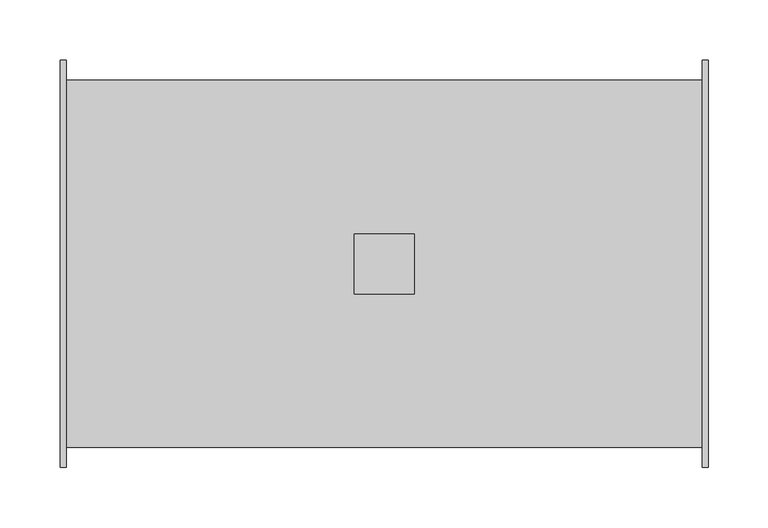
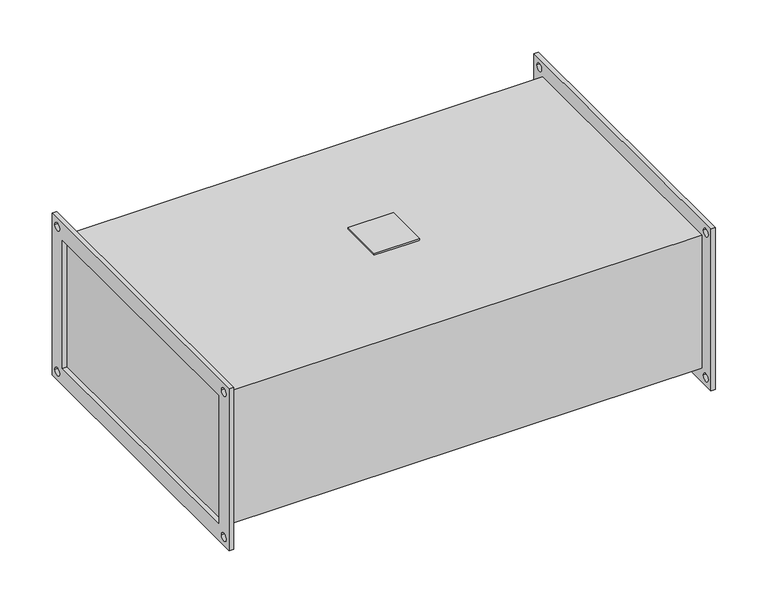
"""IFC4 building model written with IfcOpenShell, lengths in millimetres: damper geometry, KORF_Фильтр_Карманный_FKR : FKR 30-15  EU5."""

import ifcopenshell
import ifcopenshell.guid

model = None  # the IFC model being written
_history = None  # IfcOwnerHistory: only IFC2X3 demands one
_inside = {}  # id of a spatial element -> (the spatial element, [elements in it])
_under = {}  # id of a project, library or spatial element -> (it, [spatial elements below it])
_declared = {}  # id of a project -> (the project, [libraries it declares])
_typed = {}  # id of a type object -> (the type object, [elements of that type])
_made_of = {}  # id of a material, layer set ... -> (it, [elements and type objects made of it])


def new_model(schema):
    """Start an empty IFC model of exactly this schema.

    Asked for "IFC4X3", IfcOpenShell would pick the latest addendum, in which some entities
    have other attributes; the version numbers below select the first issue.
    IFC2X3 requires an IfcOwnerHistory on every rooted entity: one is made here for all.
    """
    global model, _history
    if schema == "IFC4X3":
        model = ifcopenshell.file(schema_version=(4, 3, 0, 0))
    else:
        model = ifcopenshell.file(schema=schema)
    _inside.clear()
    _under.clear()
    _declared.clear()
    _typed.clear()
    _made_of.clear()
    _history = None
    if model.schema == "IFC2X3":
        org = make("IfcOrganization", Name="unknown")
        user = make(
            "IfcPersonAndOrganization",
            ThePerson=make("IfcPerson", FamilyName="unknown"),
            TheOrganization=org,
        )
        app = make(
            "IfcApplication",
            ApplicationDeveloper=org,
            Version="unknown",
            ApplicationFullName="unknown",
            ApplicationIdentifier="unknown",
        )
        _history = make(
            "IfcOwnerHistory",
            OwningUser=user,
            OwningApplication=app,
            ChangeAction="ADDED",
            CreationDate=0,
        )
    return model


def make(cls, **values):
    """One entity of the class cls with the attributes given. An attribute that is None is left unset."""
    return model.create_entity(
        cls, **{name: value for name, value in values.items() if value is not None}
    )


def rooted(cls, **values):
    """An entity with a GlobalId (a new one), such as an element, a storey or a relation."""
    return make(cls, GlobalId=ifcopenshell.guid.new(), OwnerHistory=_history, **values)


def si_unit(unit_type, name, prefix=None):
    """IfcSIUnit, for example si_unit("LENGTHUNIT", "METRE", prefix="MILLI")."""
    return make("IfcSIUnit", UnitType=unit_type, Prefix=prefix, Name=name)


def assignment(units):
    """IfcUnitAssignment: the units of a project."""
    return None if units is None else make("IfcUnitAssignment", Units=units)


def point(xyz):
    """IfcCartesianPoint."""
    return None if xyz is None else make("IfcCartesianPoint", Coordinates=xyz)


def direction(xyz):
    """IfcDirection."""
    return None if xyz is None else make("IfcDirection", DirectionRatios=xyz)


def frame(location, z_axis=None, x_axis=None):
    """IfcAxis2Placement3D, a coordinate frame: its origin and axes. An axis left out is left unset."""
    return make(
        "IfcAxis2Placement3D",
        Location=point(location),
        Axis=direction(z_axis),
        RefDirection=direction(x_axis),
    )


def frame_2d(location, x_axis=None):
    """IfcAxis2Placement2D, a coordinate frame in the plane: its origin and x axis."""
    return make(
        "IfcAxis2Placement2D", Location=point(location), RefDirection=direction(x_axis)
    )


def origin():
    """The frame at (0, 0, 0) with its axes left unset."""
    return frame((0.0, 0.0, 0.0))


def place(relative_to, where):
    """IfcLocalPlacement: puts the frame where relative to a parent placement (None: the world)."""
    return make(
        "IfcLocalPlacement", PlacementRelTo=relative_to, RelativePlacement=where
    )


def context(
    kind, dimensions, precision=None, world=None, true_north=None, identifier=None
):
    """IfcGeometricRepresentationContext, for example the 3D "Model" context."""
    return make(
        "IfcGeometricRepresentationContext",
        ContextIdentifier=identifier,
        ContextType=kind,
        CoordinateSpaceDimension=dimensions,
        Precision=precision,
        WorldCoordinateSystem=world,
        TrueNorth=true_north,
    )


def project(units=None, contexts=None):
    """IfcProject with its units and contexts."""
    return rooted(
        "IfcProject",
        Name="project",
        RepresentationContexts=contexts,
        UnitsInContext=assignment(units),
    )


def spatial(cls, under=None, at=None, **own):
    """A site, building, storey or space (cls), placed at a placement, below another one or the project."""
    s = rooted(cls, ObjectPlacement=at, **own)
    if under is not None:
        _under.setdefault(under.id(), (under, []))[1].append(s)
    return s


def polyline(points):
    """IfcPolyline through the points."""
    return make("IfcPolyline", Points=[point(p) for p in points])


def circle_curve(where, radius):
    """IfcCircle in the frame where."""
    return make("IfcCircle", Position=where, Radius=radius)


def trimmed(basis, trim1, trim2, sense, master):
    """IfcTrimmedCurve: the piece of a basis curve between two trims."""
    return make(
        "IfcTrimmedCurve",
        BasisCurve=basis,
        Trim1=trim1,
        Trim2=trim2,
        SenseAgreement=sense,
        MasterRepresentation=master,
    )


def segment(curve, same_sense, transition):
    """IfcCompositeCurveSegment."""
    return make(
        "IfcCompositeCurveSegment",
        Transition=transition,
        SameSense=same_sense,
        ParentCurve=curve,
    )


def composite_curve(segments, self_intersect=None):
    """IfcCompositeCurve: segments joined end to end."""
    return make("IfcCompositeCurve", Segments=segments, SelfIntersect=self_intersect)


def outline(outer, holes=None, kind="AREA"):
    """IfcArbitraryClosedProfileDef: a profile drawn as a closed curve; with holes, ...WithVoids."""
    if holes is None:
        return make("IfcArbitraryClosedProfileDef", ProfileType=kind, OuterCurve=outer)
    return make(
        "IfcArbitraryProfileDefWithVoids",
        ProfileType=kind,
        OuterCurve=outer,
        InnerCurves=holes,
    )


def extrude(swept, where, along, depth):
    """IfcExtrudedAreaSolid: the profile swept, set in the frame where, extruded along a direction by depth."""
    return make(
        "IfcExtrudedAreaSolid",
        SweptArea=swept,
        Position=where,
        ExtrudedDirection=direction(along),
        Depth=depth,
    )


def shape(context_of_items, identifier, shape_type, items):
    """IfcShapeRepresentation: the items that make up one representation, for example the "Body"."""
    return make(
        "IfcShapeRepresentation",
        ContextOfItems=context_of_items,
        RepresentationIdentifier=identifier,
        RepresentationType=shape_type,
        Items=items,
    )


def source(mapping_origin, context_of_items, identifier, shape_type, items):
    """IfcRepresentationMap: a shape defined once, which mapped items show again and again."""
    return make(
        "IfcRepresentationMap",
        MappingOrigin=mapping_origin,
        MappedRepresentation=shape(context_of_items, identifier, shape_type, items),
    )


def transform(
    local_origin,
    x_axis=None,
    y_axis=None,
    z_axis=None,
    scale=None,
    scale2=None,
    scale3=None,
    uniform=True,
):
    """IfcCartesianTransformationOperator3D, or its non-uniform kind. x_axis, y_axis, z_axis: its Axis1, 2, 3."""
    if uniform:
        return make(
            "IfcCartesianTransformationOperator3D",
            Axis1=direction(x_axis),
            Axis2=direction(y_axis),
            LocalOrigin=point(local_origin),
            Scale=scale,
            Axis3=direction(z_axis),
        )
    return make(
        "IfcCartesianTransformationOperator3DnonUniform",
        Axis1=direction(x_axis),
        Axis2=direction(y_axis),
        LocalOrigin=point(local_origin),
        Scale=scale,
        Axis3=direction(z_axis),
        Scale2=scale2,
        Scale3=scale3,
    )


def mapped(mapping_source, mapping_target):
    """IfcMappedItem: shows the shape of a source again, moved by a transform."""
    return make(
        "IfcMappedItem", MappingSource=mapping_source, MappingTarget=mapping_target
    )


def made_of(thing, what):
    """Note that an element or type object is made of a material, layer set ...; save() writes the relation."""
    if what is not None:
        _made_of.setdefault(what.id(), (what, []))[1].append(thing)
    return thing


def element(
    cls,
    number,
    at=None,
    inside=None,
    cuts=None,
    type_object=None,
    material=None,
    context=None,
    identifier="Body",
    shape_type=None,
    held_by="IfcProductDefinitionShape",
    body=None,
    shapes=None,
    **own,
):
    """One element of the class cls, such as IfcWall. Its Tag is "e" and its number.

    at: its placement. inside: the storey or other place that contains it. cuts: it is an
    opening in that element (IfcRelVoidsElement). A single representation is given by context,
    identifier, shape_type and body (its items); several are given by shapes. held_by: the class
    of the entity that holds the representations. save() writes the other relations.
    """
    e = rooted(cls, Tag="e%d" % number, ObjectPlacement=at, **own)
    if body is not None:
        shapes = [shape(context, identifier, shape_type, body)]
    if shapes is not None:
        e.Representation = make(held_by, Representations=shapes)
    if inside is not None:
        _inside.setdefault(inside.id(), (inside, []))[1].append(e)
    if cuts is not None:
        rooted(
            "IfcRelVoidsElement", RelatingBuildingElement=cuts, RelatedOpeningElement=e
        )
    if type_object is not None:
        _typed.setdefault(type_object.id(), (type_object, []))[1].append(e)
    return made_of(e, material)


def aggregate(whole, parts):
    """IfcRelAggregates: a whole, such as a stair, and the parts it consists of."""
    return rooted("IfcRelAggregates", RelatingObject=whole, RelatedObjects=parts)


def save(model, path):
    """Write the relations noted so far, then the file.

    IfcRelAggregates (storeys below a building ...), IfcRelContainedInSpatialStructure (elements
    in a storey), IfcRelDefinesByType, IfcRelAssociatesMaterial and IfcRelDeclares: one each for
    every whole, place, type object, material and project.
    """
    for whole, parts in _under.values():
        aggregate(whole, parts)
    for where, things in _inside.values():
        rooted(
            "IfcRelContainedInSpatialStructure",
            RelatedElements=things,
            RelatingStructure=where,
        )
    for kind, things in _typed.values():
        rooted("IfcRelDefinesByType", RelatedObjects=things, RelatingType=kind)
    for what, things in _made_of.values():
        rooted("IfcRelAssociatesMaterial", RelatedObjects=things, RelatingMaterial=what)
    for by, libraries in _declared.values():
        rooted("IfcRelDeclares", RelatingContext=by, RelatedDefinitions=libraries)
    model.write(path)


def damper_dfc493b6(model_context):
    return source(origin(), model_context, "Body", "SweptSolid", [
        extrude(outline(polyline([(295.0, 25.0), (295.0, -25.0), (245.0, -25.0), (245.0, 25.0), (295.0, 25.0)])), frame((0.0, 0.0, 78.0), z_axis=(0.0, 0.0, 1.0), x_axis=(1.0, 0.0, 0.0)), (0.0, 0.0, 1.0), 2.0),
        extrude(outline(polyline([(-170.0, 95.0), (170.0, 95.0), (170.0, -95.0), (-170.0, -95.0), (-170.0, 95.0)]), holes=[polyline([(-150.0, 75.0), (-150.0, -75.0), (150.0, -75.0), (150.0, 75.0), (-150.0, 75.0)]), composite_curve([segment(trimmed(circle_curve(frame_2d((160.0, 85.0)), 4.5), [point((155.5, 85.0))], [point((164.5, 85.0))], True, "CARTESIAN"), True, "CONTINUOUS"), segment(trimmed(circle_curve(frame_2d((160.0, 85.0)), 4.5), [point((164.5, 85.0))], [point((155.5, 85.0))], True, "CARTESIAN"), True, "CONTINUOUS")], self_intersect=False), composite_curve([segment(trimmed(circle_curve(frame_2d((-160.0, 85.0)), 4.5), [point((-164.5, 85.0))], [point((-155.5, 85.0))], True, "CARTESIAN"), True, "CONTINUOUS"), segment(trimmed(circle_curve(frame_2d((-160.0, 85.0)), 4.5), [point((-155.5, 85.0))], [point((-164.5, 85.0))], True, "CARTESIAN"), True, "CONTINUOUS")], self_intersect=False), composite_curve([segment(trimmed(circle_curve(frame_2d((-160.0, -85.0)), 4.5), [point((-164.5, -85.0))], [point((-155.5, -85.0))], True, "CARTESIAN"), True, "CONTINUOUS"), segment(trimmed(circle_curve(frame_2d((-160.0, -85.0)), 4.5), [point((-155.5, -85.0))], [point((-164.5, -85.0))], True, "CARTESIAN"), True, "CONTINUOUS")], self_intersect=False), composite_curve([segment(trimmed(circle_curve(frame_2d((160.0, -85.0)), 4.5), [point((155.5, -85.0))], [point((164.5, -85.0))], True, "CARTESIAN"), True, "CONTINUOUS"), segment(trimmed(circle_curve(frame_2d((160.0, -85.0)), 4.5), [point((164.5, -85.0))], [point((155.5, -85.0))], True, "CARTESIAN"), True, "CONTINUOUS")], self_intersect=False)]), frame((535.0, 0.0, 0.0), z_axis=(1.0, 0.0, 0.0), x_axis=(0.0, 1.0, 0.0)), (0.0, 0.0, 1.0), 5.0),
        extrude(outline(polyline([(-170.0, 95.0), (170.0, 95.0), (170.0, -95.0), (-170.0, -95.0), (-170.0, 95.0)]), holes=[polyline([(-150.0, 75.0), (-150.0, -75.0), (150.0, -75.0), (150.0, 75.0), (-150.0, 75.0)]), composite_curve([segment(trimmed(circle_curve(frame_2d((160.0, 85.0)), 4.5), [point((155.5, 85.0))], [point((164.5, 85.0))], True, "CARTESIAN"), True, "CONTINUOUS"), segment(trimmed(circle_curve(frame_2d((160.0, 85.0)), 4.5), [point((164.5, 85.0))], [point((155.5, 85.0))], True, "CARTESIAN"), True, "CONTINUOUS")], self_intersect=False), composite_curve([segment(trimmed(circle_curve(frame_2d((-160.0, 85.0)), 4.5), [point((-164.5, 85.0))], [point((-155.5, 85.0))], True, "CARTESIAN"), True, "CONTINUOUS"), segment(trimmed(circle_curve(frame_2d((-160.0, 85.0)), 4.5), [point((-155.5, 85.0))], [point((-164.5, 85.0))], True, "CARTESIAN"), True, "CONTINUOUS")], self_intersect=False), composite_curve([segment(trimmed(circle_curve(frame_2d((-160.0, -85.0)), 4.5), [point((-164.5, -85.0))], [point((-155.5, -85.0))], True, "CARTESIAN"), True, "CONTINUOUS"), segment(trimmed(circle_curve(frame_2d((-160.0, -85.0)), 4.5), [point((-155.5, -85.0))], [point((-164.5, -85.0))], True, "CARTESIAN"), True, "CONTINUOUS")], self_intersect=False), composite_curve([segment(trimmed(circle_curve(frame_2d((160.0, -85.0)), 4.5), [point((155.5, -85.0))], [point((164.5, -85.0))], True, "CARTESIAN"), True, "CONTINUOUS"), segment(trimmed(circle_curve(frame_2d((160.0, -85.0)), 4.5), [point((164.5, -85.0))], [point((155.5, -85.0))], True, "CARTESIAN"), True, "CONTINUOUS")], self_intersect=False)]), frame((0.0, 0.0, 0.0), z_axis=(1.0, 0.0, 0.0), x_axis=(0.0, 1.0, 0.0)), (0.0, 0.0, 1.0), 5.0),
        extrude(outline(polyline([(535.0, 153.0), (535.0, -153.0), (5.0, -153.0), (5.0, 153.0), (535.0, 153.0)])), frame((0.0, 0.0, -78.0), z_axis=(0.0, 0.0, 1.0), x_axis=(1.0, 0.0, 0.0)), (0.0, 0.0, 1.0), 156.0),
    ])


if __name__ == "__main__":
    model = new_model("IFC4")
    model_context = context("Model", 3, world=origin())
    ifc_project = project(units=[si_unit("LENGTHUNIT", "METRE", prefix="MILLI")], contexts=[model_context])
    site = spatial("IfcSite", under=ifc_project)
    building = spatial("IfcBuilding", under=site)
    placement = place(None, origin())
    damper_shape = damper_dfc493b6(model_context)
    element("IfcDamper", 1, ObjectType="KORF_Фильтр_Карманный_FKR : FKR 30-15  EU5", at=placement, inside=building, context=model_context, shape_type="MappedRepresentation", body=[
        mapped(damper_shape, transform((0.0, 0.0, 0.0), x_axis=(1.0, 0.0, 0.0), y_axis=(0.0, 1.0, 0.0), z_axis=(0.0, 0.0, 1.0))),
    ])
    save(model, "model.ifc")
